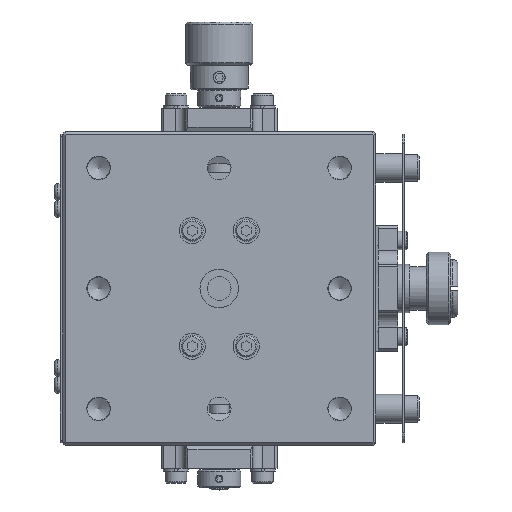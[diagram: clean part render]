
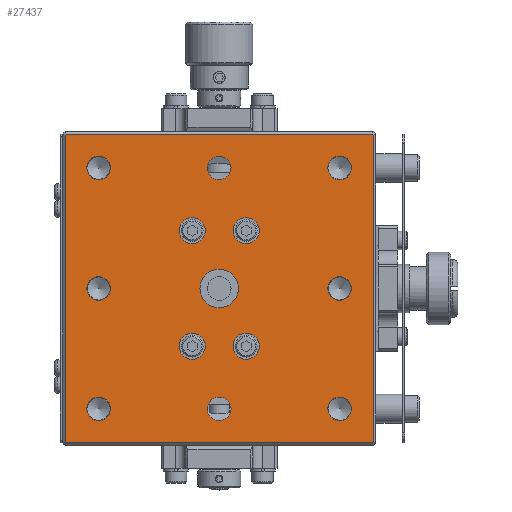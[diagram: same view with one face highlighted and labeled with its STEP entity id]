
A CAD part, top view. The second image highlights one B-rep face of the part: STEP entity #27437.
In plain terms, the highlighted planar face has unit normal (0, 0, 1).
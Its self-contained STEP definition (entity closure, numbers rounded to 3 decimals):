
#26893=CARTESIAN_POINT('',(-32.0,31.793,-50.0));
#26894=VERTEX_POINT('',#26893);
#26895=CARTESIAN_POINT('',(-31.793,32.0,-50.0));
#26896=VERTEX_POINT('',#26895);
#26897=CARTESIAN_POINT('',(-32.0,31.793,-50.0));
#26898=DIRECTION('',(0.707,0.707,0.0));
#26899=VECTOR('',#26898,0.293);
#26900=LINE('',#26897,#26899);
#26901=EDGE_CURVE('',#26894,#26896,#26900,.T.);
#26931=CARTESIAN_POINT('',(-32.0,-31.793,-50.0));
#26932=VERTEX_POINT('',#26931);
#26933=CARTESIAN_POINT('',(-32.0,-31.793,-50.0));
#26934=DIRECTION('',(0.0,1.0,0.0));
#26935=VECTOR('',#26934,63.586);
#26936=LINE('',#26933,#26935);
#26937=EDGE_CURVE('',#26932,#26894,#26936,.T.);
#26964=CARTESIAN_POINT('',(31.793,32.0,-50.0));
#26965=VERTEX_POINT('',#26964);
#26966=CARTESIAN_POINT('',(-31.793,32.0,-50.0));
#26967=DIRECTION('',(1.0,0.0,0.0));
#26968=VECTOR('',#26967,63.586);
#26969=LINE('',#26966,#26968);
#26970=EDGE_CURVE('',#26896,#26965,#26969,.T.);
#26986=CARTESIAN_POINT('',(31.793,-32.,-50.0));
#26987=VERTEX_POINT('',#26986);
#26988=CARTESIAN_POINT('',(-31.793,-32.0,-50.0));
#26989=VERTEX_POINT('',#26988);
#26990=CARTESIAN_POINT('',(31.793,-32.,-50.0));
#26991=DIRECTION('',(-1.0,0.0,0.0));
#26992=VECTOR('',#26991,63.586);
#26993=LINE('',#26990,#26992);
#26994=EDGE_CURVE('',#26987,#26989,#26993,.T.);
#27024=CARTESIAN_POINT('',(32.0,31.793,-50.0));
#27025=VERTEX_POINT('',#27024);
#27026=CARTESIAN_POINT('',(32.,-31.793,-50.0));
#27027=VERTEX_POINT('',#27026);
#27028=CARTESIAN_POINT('',(32.0,31.793,-50.0));
#27029=DIRECTION('',(0.0,-1.0,0.0));
#27030=VECTOR('',#27029,63.586);
#27031=LINE('',#27028,#27030);
#27032=EDGE_CURVE('',#27025,#27027,#27031,.T.);
#27076=CARTESIAN_POINT('',(32.,-31.793,-50.0));
#27077=DIRECTION('',(-0.707,-0.707,0.0));
#27078=VECTOR('',#27077,0.293);
#27079=LINE('',#27076,#27078);
#27080=EDGE_CURVE('',#27027,#26987,#27079,.T.);
#27098=CARTESIAN_POINT('',(31.793,32.0,-50.0));
#27099=DIRECTION('',(0.707,-0.707,0.0));
#27100=VECTOR('',#27099,0.293);
#27101=LINE('',#27098,#27100);
#27102=EDGE_CURVE('',#26965,#27025,#27101,.T.);
#27115=CARTESIAN_POINT('',(-31.793,-32.0,-50.0));
#27116=DIRECTION('',(-0.707,0.707,0.0));
#27117=VECTOR('',#27116,0.293);
#27118=LINE('',#27115,#27117);
#27119=EDGE_CURVE('',#26989,#26932,#27118,.T.);
#27279=CARTESIAN_POINT('',(32.5,-32.5,-50.0));
#27280=DIRECTION('',(0.0,0.0,-1.0));
#27281=DIRECTION('',(-1.0,0.0,0.0));
#27282=AXIS2_PLACEMENT_3D('',#27279,#27280,#27281);
#27283=PLANE('',#27282);
#27284=ORIENTED_EDGE('',*,*,#27032,.F.);
#27285=ORIENTED_EDGE('',*,*,#27102,.F.);
#27286=ORIENTED_EDGE('',*,*,#26970,.F.);
#27287=ORIENTED_EDGE('',*,*,#26901,.F.);
#27288=ORIENTED_EDGE('',*,*,#26937,.F.);
#27289=ORIENTED_EDGE('',*,*,#27119,.F.);
#27290=ORIENTED_EDGE('',*,*,#26994,.F.);
#27291=ORIENTED_EDGE('',*,*,#27080,.F.);
#27292=EDGE_LOOP('',(#27284,#27285,#27286,#27287,#27288,#27289,#27290,#27291));
#27293=FACE_OUTER_BOUND('',#27292,.T.);
#27294=CARTESIAN_POINT('',(-2.9,-12.,-50.0));
#27295=VERTEX_POINT('',#27294);
#27296=CARTESIAN_POINT('',(-5.6,-12.,-50.0));
#27297=DIRECTION('',(0.0,0.0,-1.0));
#27298=DIRECTION('',(1.0,0.0,0.0));
#27299=AXIS2_PLACEMENT_3D('',#27296,#27297,#27298);
#27300=CIRCLE('',#27299,2.7);
#27301=EDGE_CURVE('',#27295,#27295,#27300,.T.);
#27302=ORIENTED_EDGE('',*,*,#27301,.T.);
#27303=EDGE_LOOP('',(#27302));
#27304=FACE_BOUND('',#27303,.T.);
#27305=CARTESIAN_POINT('',(8.3,-12.,-50.0));
#27306=VERTEX_POINT('',#27305);
#27307=CARTESIAN_POINT('',(5.6,-12.,-50.0));
#27308=DIRECTION('',(0.0,0.0,-1.0));
#27309=DIRECTION('',(1.0,0.0,0.0));
#27310=AXIS2_PLACEMENT_3D('',#27307,#27308,#27309);
#27311=CIRCLE('',#27310,2.7);
#27312=EDGE_CURVE('',#27306,#27306,#27311,.T.);
#27313=ORIENTED_EDGE('',*,*,#27312,.T.);
#27314=EDGE_LOOP('',(#27313));
#27315=FACE_BOUND('',#27314,.T.);
#27316=CARTESIAN_POINT('',(-2.9,12.,-50.0));
#27317=VERTEX_POINT('',#27316);
#27318=CARTESIAN_POINT('',(-5.6,12.,-50.0));
#27319=DIRECTION('',(0.0,0.0,-1.0));
#27320=DIRECTION('',(1.0,0.0,0.0));
#27321=AXIS2_PLACEMENT_3D('',#27318,#27319,#27320);
#27322=CIRCLE('',#27321,2.7);
#27323=EDGE_CURVE('',#27317,#27317,#27322,.T.);
#27324=ORIENTED_EDGE('',*,*,#27323,.T.);
#27325=EDGE_LOOP('',(#27324));
#27326=FACE_BOUND('',#27325,.T.);
#27327=CARTESIAN_POINT('',(8.3,12.,-50.0));
#27328=VERTEX_POINT('',#27327);
#27329=CARTESIAN_POINT('',(5.6,12.,-50.0));
#27330=DIRECTION('',(0.0,0.0,-1.0));
#27331=DIRECTION('',(1.0,0.0,0.0));
#27332=AXIS2_PLACEMENT_3D('',#27329,#27330,#27331);
#27333=CIRCLE('',#27332,2.7);
#27334=EDGE_CURVE('',#27328,#27328,#27333,.T.);
#27335=ORIENTED_EDGE('',*,*,#27334,.T.);
#27336=EDGE_LOOP('',(#27335));
#27337=FACE_BOUND('',#27336,.T.);
#27338=CARTESIAN_POINT('',(-22.541,-25.0,-50.0));
#27339=VERTEX_POINT('',#27338);
#27340=CARTESIAN_POINT('',(-25.,-25.0,-50.0));
#27341=DIRECTION('',(0.0,0.0,-1.0));
#27342=DIRECTION('',(1.0,0.0,0.0));
#27343=AXIS2_PLACEMENT_3D('',#27340,#27341,#27342);
#27344=CIRCLE('',#27343,2.459);
#27345=EDGE_CURVE('',#27339,#27339,#27344,.T.);
#27346=ORIENTED_EDGE('',*,*,#27345,.T.);
#27347=EDGE_LOOP('',(#27346));
#27348=FACE_BOUND('',#27347,.T.);
#27349=CARTESIAN_POINT('',(27.459,-25.0,-50.0));
#27350=VERTEX_POINT('',#27349);
#27351=CARTESIAN_POINT('',(25.,-25.0,-50.0));
#27352=DIRECTION('',(0.0,0.0,-1.0));
#27353=DIRECTION('',(1.0,0.0,0.0));
#27354=AXIS2_PLACEMENT_3D('',#27351,#27352,#27353);
#27355=CIRCLE('',#27354,2.459);
#27356=EDGE_CURVE('',#27350,#27350,#27355,.T.);
#27357=ORIENTED_EDGE('',*,*,#27356,.T.);
#27358=EDGE_LOOP('',(#27357));
#27359=FACE_BOUND('',#27358,.T.);
#27360=CARTESIAN_POINT('',(-22.541,25.0,-50.0));
#27361=VERTEX_POINT('',#27360);
#27362=CARTESIAN_POINT('',(-25.0,25.0,-50.0));
#27363=DIRECTION('',(0.0,0.0,-1.0));
#27364=DIRECTION('',(1.0,0.0,0.0));
#27365=AXIS2_PLACEMENT_3D('',#27362,#27363,#27364);
#27366=CIRCLE('',#27365,2.459);
#27367=EDGE_CURVE('',#27361,#27361,#27366,.T.);
#27368=ORIENTED_EDGE('',*,*,#27367,.T.);
#27369=EDGE_LOOP('',(#27368));
#27370=FACE_BOUND('',#27369,.T.);
#27371=CARTESIAN_POINT('',(27.459,25.0,-50.0));
#27372=VERTEX_POINT('',#27371);
#27373=CARTESIAN_POINT('',(25.,25.0,-50.0));
#27374=DIRECTION('',(0.0,0.0,-1.0));
#27375=DIRECTION('',(1.0,0.0,0.0));
#27376=AXIS2_PLACEMENT_3D('',#27373,#27374,#27375);
#27377=CIRCLE('',#27376,2.459);
#27378=EDGE_CURVE('',#27372,#27372,#27377,.T.);
#27379=ORIENTED_EDGE('',*,*,#27378,.T.);
#27380=EDGE_LOOP('',(#27379));
#27381=FACE_BOUND('',#27380,.T.);
#27382=CARTESIAN_POINT('',(-22.541,0.,-50.0));
#27383=VERTEX_POINT('',#27382);
#27384=CARTESIAN_POINT('',(-25.,0.,-50.0));
#27385=DIRECTION('',(0.0,0.0,-1.0));
#27386=DIRECTION('',(1.0,0.0,0.0));
#27387=AXIS2_PLACEMENT_3D('',#27384,#27385,#27386);
#27388=CIRCLE('',#27387,2.459);
#27389=EDGE_CURVE('',#27383,#27383,#27388,.T.);
#27390=ORIENTED_EDGE('',*,*,#27389,.T.);
#27391=EDGE_LOOP('',(#27390));
#27392=FACE_BOUND('',#27391,.T.);
#27393=CARTESIAN_POINT('',(27.459,0.,-50.0));
#27394=VERTEX_POINT('',#27393);
#27395=CARTESIAN_POINT('',(25.,0.,-50.0));
#27396=DIRECTION('',(0.0,0.0,-1.0));
#27397=DIRECTION('',(1.0,0.0,0.0));
#27398=AXIS2_PLACEMENT_3D('',#27395,#27396,#27397);
#27399=CIRCLE('',#27398,2.459);
#27400=EDGE_CURVE('',#27394,#27394,#27399,.T.);
#27401=ORIENTED_EDGE('',*,*,#27400,.T.);
#27402=EDGE_LOOP('',(#27401));
#27403=FACE_BOUND('',#27402,.T.);
#27404=CARTESIAN_POINT('',(2.459,-25.,-50.0));
#27405=VERTEX_POINT('',#27404);
#27406=CARTESIAN_POINT('',(0.0,-25.,-50.0));
#27407=DIRECTION('',(0.0,0.0,-1.0));
#27408=DIRECTION('',(1.0,0.0,0.0));
#27409=AXIS2_PLACEMENT_3D('',#27406,#27407,#27408);
#27410=CIRCLE('',#27409,2.459);
#27411=EDGE_CURVE('',#27405,#27405,#27410,.T.);
#27412=ORIENTED_EDGE('',*,*,#27411,.T.);
#27413=EDGE_LOOP('',(#27412));
#27414=FACE_BOUND('',#27413,.T.);
#27415=CARTESIAN_POINT('',(2.459,25.0,-50.0));
#27416=VERTEX_POINT('',#27415);
#27417=CARTESIAN_POINT('',(0.0,25.,-50.0));
#27418=DIRECTION('',(0.0,0.0,-1.0));
#27419=DIRECTION('',(1.0,0.0,0.0));
#27420=AXIS2_PLACEMENT_3D('',#27417,#27418,#27419);
#27421=CIRCLE('',#27420,2.459);
#27422=EDGE_CURVE('',#27416,#27416,#27421,.T.);
#27423=ORIENTED_EDGE('',*,*,#27422,.T.);
#27424=EDGE_LOOP('',(#27423));
#27425=FACE_BOUND('',#27424,.T.);
#27426=CARTESIAN_POINT('',(4.0,0.,-50.0));
#27427=VERTEX_POINT('',#27426);
#27428=CARTESIAN_POINT('',(0.0,0.,-50.0));
#27429=DIRECTION('',(0.0,0.0,-1.0));
#27430=DIRECTION('',(-1.0,0.0,0.0));
#27431=AXIS2_PLACEMENT_3D('',#27428,#27429,#27430);
#27432=CIRCLE('',#27431,4.0);
#27433=EDGE_CURVE('',#27427,#27427,#27432,.T.);
#27434=ORIENTED_EDGE('',*,*,#27433,.T.);
#27435=EDGE_LOOP('',(#27434));
#27436=FACE_BOUND('',#27435,.T.);
#27437=ADVANCED_FACE('',(#27293,#27304,#27315,#27326,#27337,#27348,#27359,#27370,#27381,#27392,#27403,#27414,#27425,#27436),#27283,.F.);
